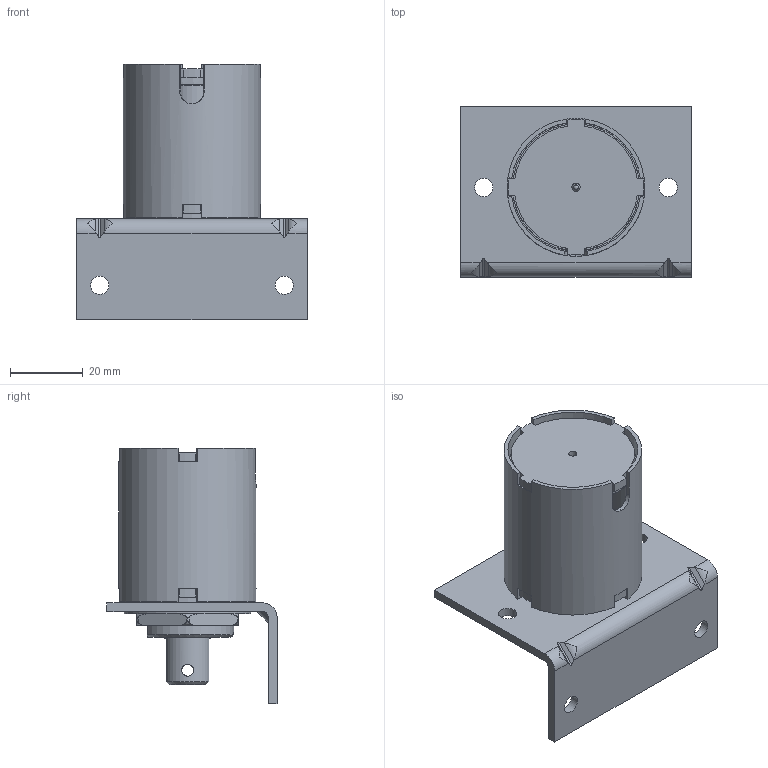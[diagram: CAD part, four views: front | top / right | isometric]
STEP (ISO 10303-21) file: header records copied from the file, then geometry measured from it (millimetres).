
FILE_DESCRIPTION((''),'2;1');
FILE_NAME('C:\Website 3D Models STP Files\MODEL T12x13.stp','2014-08-04T12:16:49',('Dennis'),(''),'Autodesk Inventor 2013','Autodesk Inventor 2013','');
FILE_SCHEMA(('AUTOMOTIVE_DESIGN { 1 0 10303 214 1 1 1 1 }'));
Length unit declared in the file: inch
Products named in the file (6): MODEL T12x13; A420-066052-00_Shrinkwrap_1; 104-040351-00; 164-291578-00; 146-220255-05; 154-000086-05
Assembly tree (5 placements, depth 2):
  MODEL T12x13
    A420-066052-00_Shrinkwrap_1
    104-040351-00
    164-291578-00
    146-220255-05
    154-000086-05
Bounding box: 63.5 x 46.86 x 70.43 mm (x, y, z)
Volume: 34410.4 mm3; surface area: 36676.5 mm2
Topology: 8 solids, 8 shells, 228 faces, 628 edges, 420 vertices
Faces by surface type: plane 116, cylinder 83, torus 20, cone 5, bspline 3, sphere 1
Full cylindrical faces by diameter (mm): 2.261 x1, 3.277 x2, 5.029 x4, 12.7 x1, 12.852 x1, 13.03 x1, 14.326 x1, 14.605 x1, 14.681 x1, 25.4 x1, 31.75 x1, 34.925 x3
Entity records: 8137 total; most frequent: CARTESIAN_POINT 2150, ORIENTED_EDGE 1196, DIRECTION 1182, EDGE_CURVE 598, AXIS2_PLACEMENT_3D 434, VERTEX_POINT 415, VECTOR 314, LINE 314
